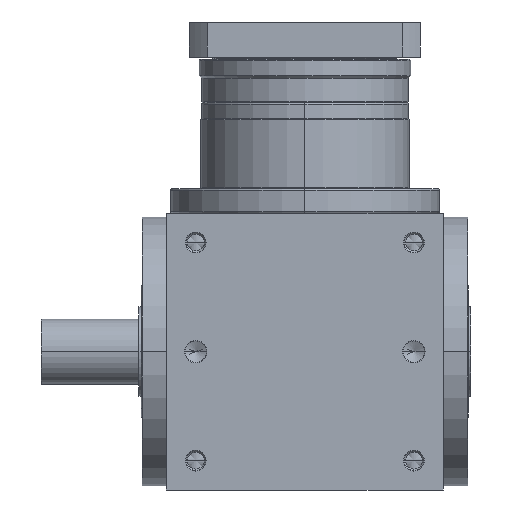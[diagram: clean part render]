
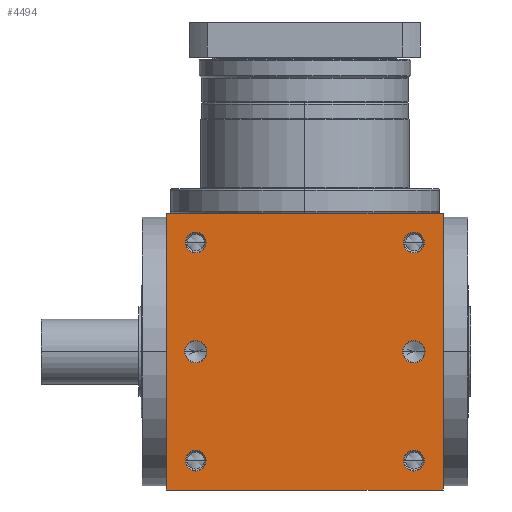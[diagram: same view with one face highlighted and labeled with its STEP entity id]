
A CAD part, front view. The second image highlights one B-rep face of the part: STEP entity #4494.
In plain terms, the highlighted planar face has unit normal (0, -1, 0).
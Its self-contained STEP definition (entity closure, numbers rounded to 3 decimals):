
#5=DIRECTION('',(1.,0.,0.));
#6=VECTOR('',#5,170.);
#7=CARTESIAN_POINT('',(-85.,-85.,-85.));
#8=LINE('',#7,#6);
#155=DIRECTION('',(0.,0.,1.));
#156=VECTOR('',#155,170.);
#157=CARTESIAN_POINT('',(85.,-85.,-85.));
#158=LINE('',#157,#156);
#209=DIRECTION('',(0.,0.,1.));
#210=VECTOR('',#209,170.);
#211=CARTESIAN_POINT('',(-85.,-85.,-85.));
#212=LINE('',#211,#210);
#213=CARTESIAN_POINT('',(67.,-85.,67.));
#214=DIRECTION('',(0.,1.,0.));
#215=DIRECTION('',(-1.,0.,0.));
#216=AXIS2_PLACEMENT_3D('',#213,#214,#215);
#218=CARTESIAN_POINT('',(67.,-85.,67.));
#219=DIRECTION('',(0.,1.,0.));
#220=DIRECTION('',(1.,0.,0.));
#221=AXIS2_PLACEMENT_3D('',#218,#219,#220);
#223=CARTESIAN_POINT('',(-67.,-85.,67.));
#224=DIRECTION('',(0.,1.,0.));
#225=DIRECTION('',(-1.,0.,0.));
#226=AXIS2_PLACEMENT_3D('',#223,#224,#225);
#228=CARTESIAN_POINT('',(-67.,-85.,67.));
#229=DIRECTION('',(0.,1.,0.));
#230=DIRECTION('',(1.,0.,0.));
#231=AXIS2_PLACEMENT_3D('',#228,#229,#230);
#233=CARTESIAN_POINT('',(67.,-85.,-67.));
#234=DIRECTION('',(0.,1.,0.));
#235=DIRECTION('',(-1.,0.,0.));
#236=AXIS2_PLACEMENT_3D('',#233,#234,#235);
#238=CARTESIAN_POINT('',(67.,-85.,-67.));
#239=DIRECTION('',(0.,1.,0.));
#240=DIRECTION('',(1.,0.,0.));
#241=AXIS2_PLACEMENT_3D('',#238,#239,#240);
#243=CARTESIAN_POINT('',(-67.,-85.,-67.));
#244=DIRECTION('',(0.,1.,0.));
#245=DIRECTION('',(-1.,0.,0.));
#246=AXIS2_PLACEMENT_3D('',#243,#244,#245);
#248=CARTESIAN_POINT('',(-67.,-85.,-67.));
#249=DIRECTION('',(0.,1.,0.));
#250=DIRECTION('',(1.,0.,0.));
#251=AXIS2_PLACEMENT_3D('',#248,#249,#250);
#253=CARTESIAN_POINT('',(-67.,-85.,0.));
#254=DIRECTION('',(0.,1.,0.));
#255=DIRECTION('',(1.,0.,0.));
#256=AXIS2_PLACEMENT_3D('',#253,#254,#255);
#258=CARTESIAN_POINT('',(-67.,-85.,0.));
#259=DIRECTION('',(0.,1.,0.));
#260=DIRECTION('',(-1.,0.,0.));
#261=AXIS2_PLACEMENT_3D('',#258,#259,#260);
#263=CARTESIAN_POINT('',(67.,-85.,0.));
#264=DIRECTION('',(0.,1.,0.));
#265=DIRECTION('',(1.,0.,0.));
#266=AXIS2_PLACEMENT_3D('',#263,#264,#265);
#268=CARTESIAN_POINT('',(67.,-85.,0.));
#269=DIRECTION('',(0.,1.,0.));
#270=DIRECTION('',(-1.,0.,0.));
#271=AXIS2_PLACEMENT_3D('',#268,#269,#270);
#285=DIRECTION('',(1.,0.,0.));
#286=VECTOR('',#285,170.);
#287=CARTESIAN_POINT('',(-85.,-85.,85.));
#288=LINE('',#287,#286);
#3615=CARTESIAN_POINT('',(-85.,-85.,-85.));
#3617=VERTEX_POINT('',#3615);
#3618=CARTESIAN_POINT('',(85.,-85.,-85.));
#3619=VERTEX_POINT('',#3618);
#3623=CARTESIAN_POINT('',(-85.,-85.,85.));
#3625=VERTEX_POINT('',#3623);
#3626=CARTESIAN_POINT('',(85.,-85.,85.));
#3627=VERTEX_POINT('',#3626);
#3798=CARTESIAN_POINT('',(60.65,-85.,67.));
#3799=CARTESIAN_POINT('',(73.35,-85.,67.));
#3800=VERTEX_POINT('',#3798);
#3801=VERTEX_POINT('',#3799);
#3806=CARTESIAN_POINT('',(-73.35,-85.,67.));
#3807=CARTESIAN_POINT('',(-60.65,-85.,67.));
#3808=VERTEX_POINT('',#3806);
#3809=VERTEX_POINT('',#3807);
#3814=CARTESIAN_POINT('',(60.65,-85.,-67.));
#3815=CARTESIAN_POINT('',(73.35,-85.,-67.));
#3816=VERTEX_POINT('',#3814);
#3817=VERTEX_POINT('',#3815);
#3822=CARTESIAN_POINT('',(-73.35,-85.,-67.));
#3823=CARTESIAN_POINT('',(-60.65,-85.,-67.));
#3824=VERTEX_POINT('',#3822);
#3825=VERTEX_POINT('',#3823);
#4164=CARTESIAN_POINT('',(-60.15,-85.,0.));
#4165=CARTESIAN_POINT('',(-73.85,-85.,
0.));
#4166=VERTEX_POINT('',#4164);
#4167=VERTEX_POINT('',#4165);
#4172=CARTESIAN_POINT('',(73.85,-85.,0.));
#4173=CARTESIAN_POINT('',(60.15,-85.,0.));
#4174=VERTEX_POINT('',#4172);
#4175=VERTEX_POINT('',#4173);
#4446=CARTESIAN_POINT('',(-85.,-85.,-85.));
#4447=DIRECTION('',(0.,-1.,0.));
#4448=DIRECTION('',(1.,0.,0.));
#4449=AXIS2_PLACEMENT_3D('',#4446,#4447,#4448);
#4450=PLANE('',#4449);
#4451=ORIENTED_EDGE('',*,*,#4286,.F.);
#4452=ORIENTED_EDGE('',*,*,#4329,.T.);
#4454=ORIENTED_EDGE('',*,*,#4453,.T.);
#4455=ORIENTED_EDGE('',*,*,#4408,.F.);
#4456=EDGE_LOOP('',(#4451,#4452,#4454,#4455));
#4457=FACE_OUTER_BOUND('',#4456,.F.);
#4459=ORIENTED_EDGE('',*,*,#4458,.F.);
#4461=ORIENTED_EDGE('',*,*,#4460,.F.);
#4462=EDGE_LOOP('',(#4459,#4461));
#4463=FACE_BOUND('',#4462,.F.);
#4465=ORIENTED_EDGE('',*,*,#4464,.F.);
#4467=ORIENTED_EDGE('',*,*,#4466,.F.);
#4468=EDGE_LOOP('',(#4465,#4467));
#4469=FACE_BOUND('',#4468,.F.);
#4471=ORIENTED_EDGE('',*,*,#4470,.F.);
#4473=ORIENTED_EDGE('',*,*,#4472,.F.);
#4474=EDGE_LOOP('',(#4471,#4473));
#4475=FACE_BOUND('',#4474,.F.);
#4477=ORIENTED_EDGE('',*,*,#4476,.F.);
#4479=ORIENTED_EDGE('',*,*,#4478,.F.);
#4480=EDGE_LOOP('',(#4477,#4479));
#4481=FACE_BOUND('',#4480,.F.);
#4483=ORIENTED_EDGE('',*,*,#4482,.F.);
#4485=ORIENTED_EDGE('',*,*,#4484,.F.);
#4486=EDGE_LOOP('',(#4483,#4485));
#4487=FACE_BOUND('',#4486,.F.);
#4489=ORIENTED_EDGE('',*,*,#4488,.F.);
#4491=ORIENTED_EDGE('',*,*,#4490,.F.);
#4492=EDGE_LOOP('',(#4489,#4491));
#4493=FACE_BOUND('',#4492,.F.);
#4494=ADVANCED_FACE('',(#4457,#4463,#4469,#4475,#4481,#4487,#4493),#4450,.T.);
#217=CIRCLE('',#216,6.35);
#222=CIRCLE('',#221,6.35);
#227=CIRCLE('',#226,6.35);
#232=CIRCLE('',#231,6.35);
#237=CIRCLE('',#236,6.35);
#242=CIRCLE('',#241,6.35);
#247=CIRCLE('',#246,6.35);
#252=CIRCLE('',#251,6.35);
#257=CIRCLE('',#256,6.85);
#262=CIRCLE('',#261,6.85);
#267=CIRCLE('',#266,6.85);
#272=CIRCLE('',#271,6.85);
#4286=EDGE_CURVE('',#3617,#3619,#8,.T.);
#4329=EDGE_CURVE('',#3617,#3625,#212,.T.);
#4408=EDGE_CURVE('',#3619,#3627,#158,.T.);
#4453=EDGE_CURVE('',#3625,#3627,#288,.T.);
#4458=EDGE_CURVE('',#3800,#3801,#217,.T.);
#4460=EDGE_CURVE('',#3801,#3800,#222,.T.);
#4464=EDGE_CURVE('',#3808,#3809,#227,.T.);
#4466=EDGE_CURVE('',#3809,#3808,#232,.T.);
#4470=EDGE_CURVE('',#3816,#3817,#237,.T.);
#4472=EDGE_CURVE('',#3817,#3816,#242,.T.);
#4476=EDGE_CURVE('',#3824,#3825,#247,.T.);
#4478=EDGE_CURVE('',#3825,#3824,#252,.T.);
#4482=EDGE_CURVE('',#4166,#4167,#257,.T.);
#4484=EDGE_CURVE('',#4167,#4166,#262,.T.);
#4488=EDGE_CURVE('',#4174,#4175,#267,.T.);
#4490=EDGE_CURVE('',#4175,#4174,#272,.T.);
